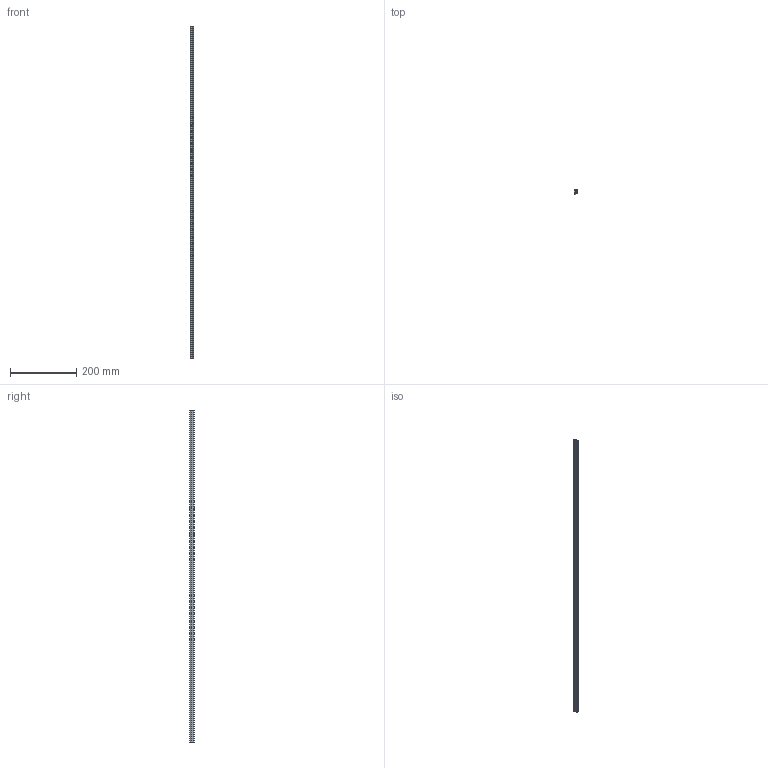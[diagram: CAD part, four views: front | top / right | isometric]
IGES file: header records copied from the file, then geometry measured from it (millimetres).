
Start section: SolidWorks IGES file using analytic representation for surfaces
Bounding box: 9.38 x 13.41 x 1000 mm (x, y, z)
Surface area: 64215.8 mm2 (no closed solid volume)
Topology: 0 solids, 0 shells, 25 faces, 254 edges, 254 vertices
Faces by surface type: bspline 13, revolution 12
